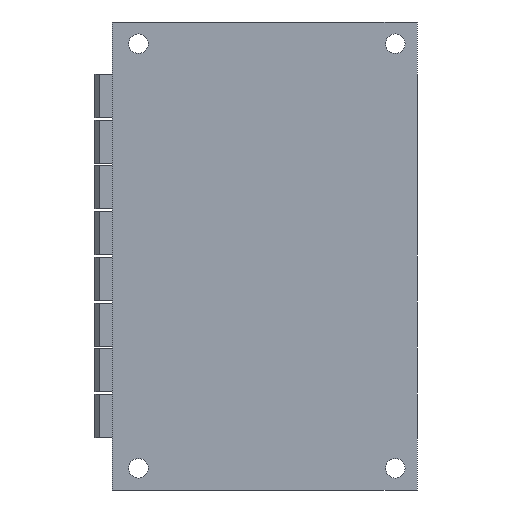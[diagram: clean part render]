
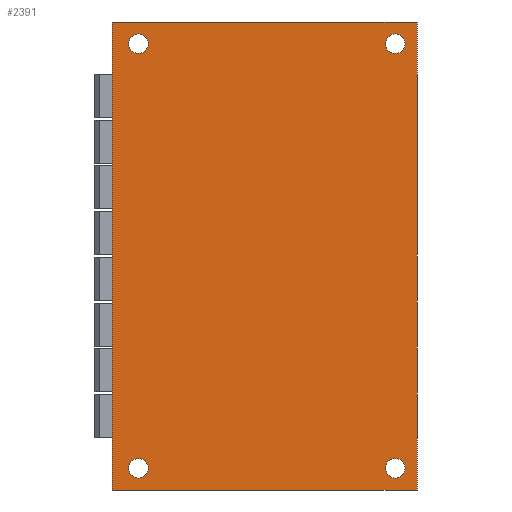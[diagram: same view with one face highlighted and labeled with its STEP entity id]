
A CAD part, front view. The second image highlights one B-rep face of the part: STEP entity #2391.
In plain terms, the highlighted planar face has unit normal (0, -1, 0) as drawn and (0, 0, 1) by its records, which use the part's own axes.
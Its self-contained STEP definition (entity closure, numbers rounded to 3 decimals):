
#2391=ADVANCED_FACE('',(#5343,#5344,#5345,#5346,#5347),#5348,.T.);
#5343=FACE_BOUND('',#8655,.T.);
#5344=FACE_BOUND('',#8656,.T.);
#5345=FACE_BOUND('',#8657,.T.);
#5346=FACE_BOUND('',#8658,.T.);
#5347=FACE_OUTER_BOUND('',#8659,.T.);
#5348=PLANE('',#8660);
#8655=EDGE_LOOP('',(#19174));
#8656=EDGE_LOOP('',(#19175));
#8657=EDGE_LOOP('',(#19176));
#8658=EDGE_LOOP('',(#19177));
#8659=EDGE_LOOP('',(#19178,#19179,#19180,#19181));
#8660=AXIS2_PLACEMENT_3D('',#19182,#19183,#19184);
#19174=ORIENTED_EDGE('',*,*,#24531,.F.);
#19175=ORIENTED_EDGE('',*,*,#24532,.T.);
#19176=ORIENTED_EDGE('',*,*,#24516,.F.);
#19177=ORIENTED_EDGE('',*,*,#24533,.T.);
#19178=ORIENTED_EDGE('',*,*,#24522,.T.);
#19179=ORIENTED_EDGE('',*,*,#24511,.T.);
#19180=ORIENTED_EDGE('',*,*,#24505,.T.);
#19181=ORIENTED_EDGE('',*,*,#24509,.T.);
#19182=CARTESIAN_POINT('',(-53.75,-35.0,25.889));
#19183=DIRECTION('',(0.0,0.0,1.0));
#19184=DIRECTION('',(1.0,0.0,0.0));
#24505=EDGE_CURVE('',#30434,#30432,#30435,.T.);
#24509=EDGE_CURVE('',#30432,#30439,#30441,.T.);
#24511=EDGE_CURVE('',#30444,#30434,#30445,.T.);
#24516=EDGE_CURVE('',#30453,#30453,#30454,.T.);
#24522=EDGE_CURVE('',#30439,#30444,#30464,.T.);
#24531=EDGE_CURVE('',#30481,#30481,#30482,.T.);
#24532=EDGE_CURVE('',#30483,#30483,#30484,.T.);
#24533=EDGE_CURVE('',#30485,#30485,#30486,.T.);
#30432=VERTEX_POINT('',#39782);
#30434=VERTEX_POINT('',#39785);
#30435=LINE('',#39786,#39787);
#30439=VERTEX_POINT('',#39793);
#30441=LINE('',#39796,#39797);
#30444=VERTEX_POINT('',#39801);
#30445=LINE('',#39802,#39803);
#30453=VERTEX_POINT('',#39812);
#30454=CIRCLE('',#39813,2.25);
#30464=LINE('',#39824,#39825);
#30481=VERTEX_POINT('',#39842);
#30482=CIRCLE('',#39843,2.25);
#30483=VERTEX_POINT('',#39844);
#30484=CIRCLE('',#39845,2.25);
#30485=VERTEX_POINT('',#39846);
#30486=CIRCLE('',#39847,2.25);
#39782=CARTESIAN_POINT('',(53.75,35.0,25.889));
#39785=CARTESIAN_POINT('',(53.75,-35.0,25.889));
#39786=CARTESIAN_POINT('',(53.75,-35.0,25.889));
#39787=VECTOR('',#45694,1.0);
#39793=CARTESIAN_POINT('',(-53.75,35.0,25.889));
#39796=CARTESIAN_POINT('',(53.75,35.0,25.889));
#39797=VECTOR('',#45698,1.0);
#39801=CARTESIAN_POINT('',(-53.75,-35.0,25.889));
#39802=CARTESIAN_POINT('',(-53.75,-35.0,25.889));
#39803=VECTOR('',#45700,1.0);
#39812=CARTESIAN_POINT('',(51.0,-29.0,25.889));
#39813=AXIS2_PLACEMENT_3D('',#45711,#45712,#45713);
#39824=CARTESIAN_POINT('',(-53.75,35.0,25.889));
#39825=VECTOR('',#45727,1.0);
#39842=CARTESIAN_POINT('',(51.0,30.0,25.889));
#39843=AXIS2_PLACEMENT_3D('',#45752,#45753,#45754);
#39844=CARTESIAN_POINT('',(-51.0,30.0,25.889));
#39845=AXIS2_PLACEMENT_3D('',#45755,#45756,#45757);
#39846=CARTESIAN_POINT('',(-51.0,-29.0,25.889));
#39847=AXIS2_PLACEMENT_3D('',#45758,#45759,#45760);
#45694=DIRECTION('',(0.0,1.0,0.0));
#45698=DIRECTION('',(-1.0,0.0,0.0));
#45700=DIRECTION('',(1.0,0.0,0.0));
#45711=CARTESIAN_POINT('',(48.75,-29.0,25.889));
#45712=DIRECTION('',(0.0,0.0,1.0));
#45713=DIRECTION('',(1.0,0.0,0.0));
#45727=DIRECTION('',(0.0,-1.0,0.0));
#45752=CARTESIAN_POINT('',(48.75,30.0,25.889));
#45753=DIRECTION('',(0.0,0.0,1.0));
#45754=DIRECTION('',(1.0,0.0,0.0));
#45755=CARTESIAN_POINT('',(-48.75,30.0,25.889));
#45756=DIRECTION('',(0.0,0.0,-1.0));
#45757=DIRECTION('',(-1.0,0.0,0.0));
#45758=CARTESIAN_POINT('',(-48.75,-29.0,25.889));
#45759=DIRECTION('',(0.0,0.0,-1.0));
#45760=DIRECTION('',(-1.0,0.0,0.0));
